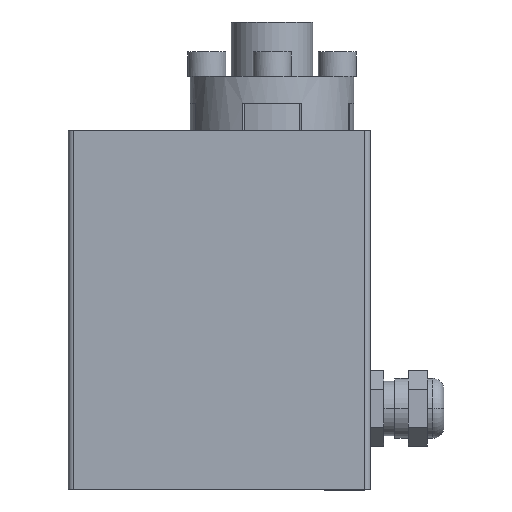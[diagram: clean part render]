
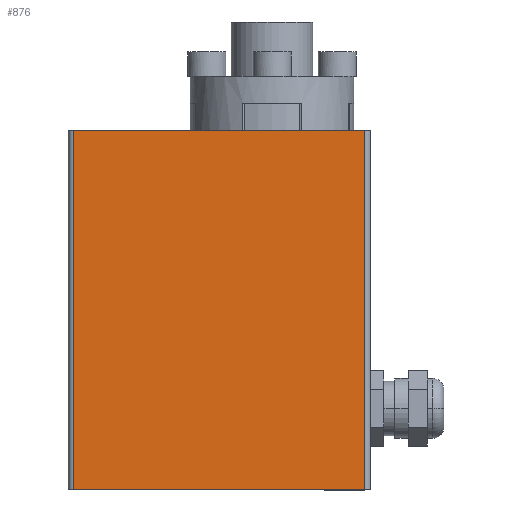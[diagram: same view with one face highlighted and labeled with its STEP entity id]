
A CAD part, front view. The second image highlights one B-rep face of the part: STEP entity #876.
In plain terms, the highlighted planar face has unit normal (0, -1, 0) as drawn and (0, 0, 1) by its records, which use the part's own axes.
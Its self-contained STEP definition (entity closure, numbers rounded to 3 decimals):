
#34 = CARTESIAN_POINT ( 'NONE',  ( 15.171, -30.568, -16.914 ) ) ;
#96 = ORIENTED_EDGE ( 'NONE', *, *, #371, .T. ) ;
#371 = EDGE_CURVE ( 'NONE', #5554, #4096, #6119, .T. ) ;
#844 = VECTOR ( 'NONE', #9858, 1000. ) ;
#876 = ADVANCED_FACE ( 'NONE', ( #4027 ), #9717, .F. ) ;
#1438 = DIRECTION ( 'NONE',  ( 0., 0., -1. ) ) ;
#1554 = DIRECTION ( 'NONE',  ( 0., 1., 0. ) ) ;
#1798 = ORIENTED_EDGE ( 'NONE', *, *, #3243, .F. ) ;
#1882 = AXIS2_PLACEMENT_3D ( 'NONE', #4619, #1438, #10423 ) ;
#2309 = LINE ( 'NONE', #5601, #10364 ) ;
#2719 = VECTOR ( 'NONE', #8935, 1000. ) ;
#2842 = VERTEX_POINT ( 'NONE', #34 ) ;
#3095 = LINE ( 'NONE', #9747, #844 ) ;
#3243 = EDGE_CURVE ( 'NONE', #5554, #6724, #8119, .T. ) ;
#3302 = EDGE_CURVE ( 'NONE', #2842, #4096, #3095, .T. ) ;
#4027 = FACE_OUTER_BOUND ( 'NONE', #4587, .T. ) ;
#4096 = VERTEX_POINT ( 'NONE', #5856 ) ;
#4587 = EDGE_LOOP ( 'NONE', ( #96, #5543, #5899, #1798 ) ) ;
#4619 = CARTESIAN_POINT ( 'NONE',  ( -39.329, 35.432, -16.914 ) ) ;
#4833 = CARTESIAN_POINT ( 'NONE',  ( 15.171, 35.432, -16.914 ) ) ;
#5254 = DIRECTION ( 'NONE',  ( 0., -1., 0. ) ) ;
#5430 = EDGE_CURVE ( 'NONE', #2842, #6724, #2309, .T. ) ;
#5543 = ORIENTED_EDGE ( 'NONE', *, *, #3302, .F. ) ;
#5554 = VERTEX_POINT ( 'NONE', #6784 ) ;
#5601 = CARTESIAN_POINT ( 'NONE',  ( 15.171, 35.432, -16.914 ) ) ;
#5856 = CARTESIAN_POINT ( 'NONE',  ( -38.329, -30.568, -16.914 ) ) ;
#5899 = ORIENTED_EDGE ( 'NONE', *, *, #5430, .T. ) ;
#6119 = LINE ( 'NONE', #8617, #9922 ) ;
#6557 = CARTESIAN_POINT ( 'NONE',  ( -39.329, 35.432, -16.914 ) ) ;
#6724 = VERTEX_POINT ( 'NONE', #4833 ) ;
#6784 = CARTESIAN_POINT ( 'NONE',  ( -38.329, 35.432, -16.914 ) ) ;
#8119 = LINE ( 'NONE', #6557, #2719 ) ;
#8617 = CARTESIAN_POINT ( 'NONE',  ( -38.329, 35.432, -16.914 ) ) ;
#8935 = DIRECTION ( 'NONE',  ( 1., 0., 0. ) ) ;
#9717 = PLANE ( 'NONE',  #1882 ) ;
#9747 = CARTESIAN_POINT ( 'NONE',  ( -38.329, -30.568, -16.914 ) ) ;
#9858 = DIRECTION ( 'NONE',  ( -1., 0., 0. ) ) ;
#9922 = VECTOR ( 'NONE', #5254, 1000. ) ;
#10364 = VECTOR ( 'NONE', #1554, 1000. ) ;
#10423 = DIRECTION ( 'NONE',  ( 0., -1., 0. ) ) ;
